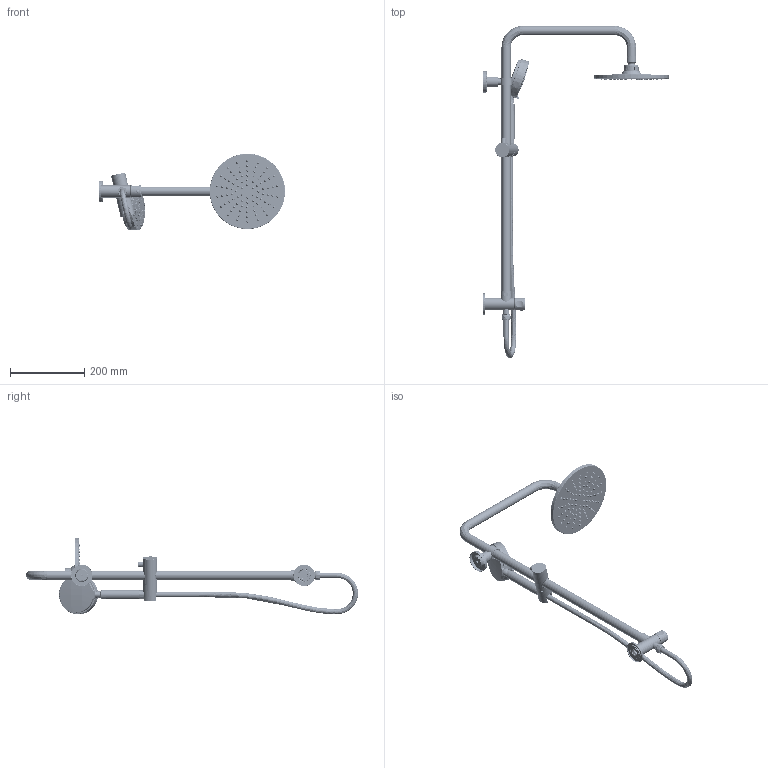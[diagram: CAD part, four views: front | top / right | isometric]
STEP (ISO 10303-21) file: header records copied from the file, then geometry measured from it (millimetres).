
FILE_DESCRIPTION (( 'STEP AP214' ), '1' );
FILE_NAME ('Hi-RDN-976A850.STEP', '2021-07-22T06:08:08', ( '' ), ( '' ), 'SwSTEP 2.0', 'SolidWorks 2020', '' );
FILE_SCHEMA (( 'AUTOMOTIVE_DESIGN' ));
Length unit declared in the file: millimetre
Products named in the file (78): 990A_QSG_923_2; 850_ASM_1; BD25ZTHJZJ_2; T11_2; 203A-NSQ_923_2; 203A_2; 308JQ_1; BD25-ZT_2; 813SBF_923_2; BD25-BS_2; 850-MB_1; CV14_2; 803A_QS_923_ASM_2; FS_2; XS_1; 803A_QTLS__923_2; Q25_2; GDM_1; GJ06_2; YWJD_923_2; JYF01_2; GJ0001__2; SB_1; JYF_ASM_2; BD25_ZTJTX_2; 850-D_1; 803A_QS_923_2; 850-M_1; Hi-RDN-976A850; 990A_ZQ01_923_2; BD25-LTZHF_ASM_2; SCREW_1; JYF02_2; 223HUA; 976A_MB_923_2; 803A-QSFHD_923_2; D400HL_WG_ASM_2; 850-M1_1; 150SC_RG_923_2; BD25-DZZJ_ASM_2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
Assembly tree (182 placements, depth 5):
  Hi-RDN-976A850
    BD25-LTZHF_ASM_2
      BD25-ZTHJFJT_ASM_2
        BD25-ZT_2
        BD25ZTHJZJ_2
      FS_2
      BD25-BS_2
      M5_LS_2
      T4018-2-FXL_2
      BD25-ZTJTS_2
      BD25_ZTJTX_2
      BD25-DZZJ_ASM_2
        GJ0001__2
        BD25-GJ07_2
      CV14_2
        CV14_4
        CV14_5
    D400HL_WG_ASM_2
      D400HL_WG_2
      D400HL_WGJT_2
      JT_2
    T11_2
    Q25_2
    YWJD_923_2  x3
    23D_SJZ_3
    150SC_923_ASM_2
      150SC_RG_923_2
      813SBF_923_2
      990A_ZQ01_923_2
      30A_NGJT_923_2
    3_4JD_2
    303MFJQ3_173_131_21_2
    D400HL-4_ASM_2
      D400HL-1_2
      D400HL-2_2
      203A_2  x2
    L-DZZJ_ASM_2
      GJ04_2
      GJ05_2
      GJ06_2
      GJ07_2
    976A_923_ASM_2
      976A_SBHJZJ_923_ASM_2
        976A_MJDZJ_923_ASM_2
          976A_MB_923_2
          976A_JD_923_2  x90
        976A_SB_923_2
      990A_QSG_923_2
      803A-QSFHD_923_2
      803A_QS_923_ASM_2
        803A_QS_923_2
        803A_QTLS__923_2
      203A-NSQ_923_2
    JYF_ASM_2
      JYF01_2
      JYF02_2
      JQ_2
    850_ASM_1
      850-SB_ASM_1
        SB_1
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Bounding box: 501.89 x 895.68 x 206.42 mm (x, y, z)
Volume: 688909 mm3; surface area: 666964.4 mm2
Topology: 160 solids, 169 shells, 7687 faces, 18410 edges, 11682 vertices
Faces by surface type: cylinder 2801, bspline 1809, plane 1710, cone 1341, torus 26
Entity records: 261296 total; most frequent: CARTESIAN_POINT 136933, ORIENTED_EDGE 26014, DIRECTION 24319, EDGE_CURVE 13050, AXIS2_PLACEMENT_3D 10000, VERTEX_POINT 8342, EDGE_LOOP 6122, CIRCLE 5459
